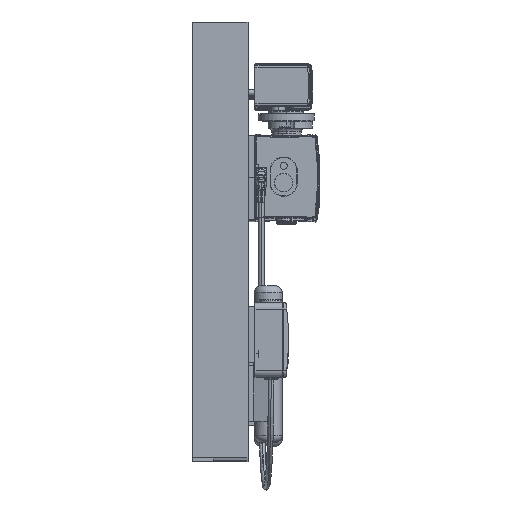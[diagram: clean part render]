
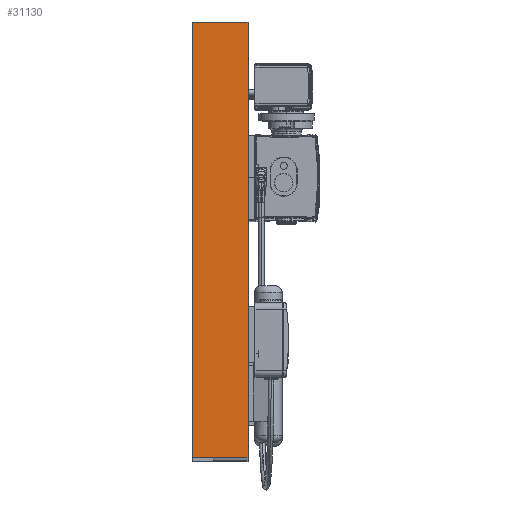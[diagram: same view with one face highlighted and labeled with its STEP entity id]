
A CAD part, top view. The second image highlights one B-rep face of the part: STEP entity #31130.
In plain terms, the highlighted planar face has unit normal (0, 0, 1).
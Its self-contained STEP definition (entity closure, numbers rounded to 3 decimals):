
#27530=CARTESIAN_POINT('',(8.,-308.55,172.75));
#27540=VERTEX_POINT('',#27530);
#27570=CARTESIAN_POINT('',(8.,-0.5,172.75));
#27580=DIRECTION('',(0.,-1.,0.));
#27590=VECTOR('',#27580,1.);
#27600=LINE('',#27570,#27590);
#27610=CARTESIAN_POINT('',(8.,2.85,172.75));
#27620=VERTEX_POINT('',#27610);
#27630=EDGE_CURVE('',#27620,#27540,#27600,.T.);
#30190=CARTESIAN_POINT('',(-32.,-0.5,172.75));
#30200=DIRECTION('',(-0.,-1.,0.));
#30210=VECTOR('',#30200,1.);
#30220=LINE('',#30190,#30210);
#30230=CARTESIAN_POINT('',(-32.,2.85,172.75));
#30240=VERTEX_POINT('',#30230);
#30250=CARTESIAN_POINT('',(-32.,-308.55,172.75));
#30260=VERTEX_POINT('',#30250);
#30270=EDGE_CURVE('',#30240,#30260,#30220,.T.);
#30860=CARTESIAN_POINT('',(0.,-308.55,172.75));
#30870=DIRECTION('',(-1.,-0.,-0.));
#30880=VECTOR('',#30870,1.);
#30890=LINE('',#30860,#30880);
#30900=EDGE_CURVE('',#27540,#30260,#30890,.T.);
#30970=CARTESIAN_POINT('',(-57.,-77.15,172.75));
#30980=DIRECTION('',(-0.,0.,1.));
#30990=DIRECTION('',(0.,-1.,0.));
#31000=AXIS2_PLACEMENT_3D('',#30970,#30980,#30990);
#31010=PLANE('',#31000);
#31020=ORIENTED_EDGE('',*,*,#30270,.T.);
#31030=CARTESIAN_POINT('',(0.,2.85,172.75));
#31040=DIRECTION('',(1.,-0.,-0.));
#31050=VECTOR('',#31040,1.);
#31060=LINE('',#31030,#31050);
#31070=EDGE_CURVE('',#30240,#27620,#31060,.T.);
#31080=ORIENTED_EDGE('',*,*,#31070,.F.);
#31090=ORIENTED_EDGE('',*,*,#27630,.F.);
#31100=ORIENTED_EDGE('',*,*,#30900,.F.);
#31110=EDGE_LOOP('',(#31100,#31090,#31080,#31020));
#31120=FACE_OUTER_BOUND('',#31110,.T.);
#31130=ADVANCED_FACE('',(#31120),#31010,.T.);
